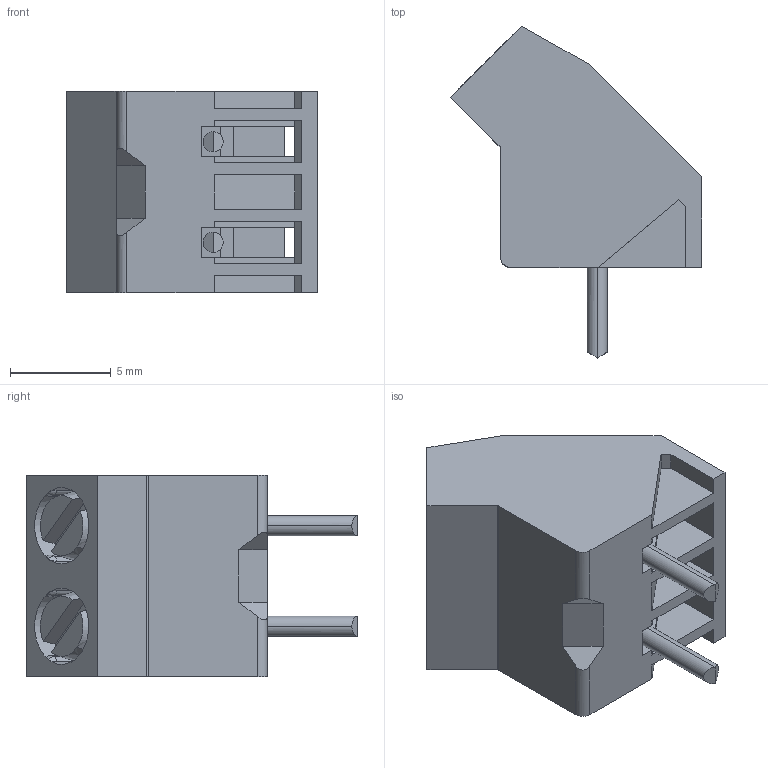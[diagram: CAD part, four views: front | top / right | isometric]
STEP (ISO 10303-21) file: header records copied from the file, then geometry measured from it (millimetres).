
FILE_DESCRIPTION (( 'STEP AP214' ), '1' );
FILE_NAME ('974-DS-02.STEP', '2009-02-18T19:57:09', ( 'weco' ), ( 'weco' ), 'SwSTEP 2.0', 'SolidWorks 2007', '' );
FILE_SCHEMA (( 'AUTOMOTIVE_DESIGN' ));
Length unit declared in the file: millimetre
Products named in the file (1): 974-DS-02
Bounding box: 12.5 x 16.5 x 10 mm (x, y, z)
Volume: 780.2 mm3; surface area: 953.3 mm2
Topology: 1 solids, 1 shells, 242 faces, 701 edges, 452 vertices
Faces by surface type: plane 149, cylinder 47, cone 30, bspline 16
Entity records: 8533 total; most frequent: CARTESIAN_POINT 2322, ORIENTED_EDGE 1402, DIRECTION 1181, EDGE_CURVE 701, VERTEX_POINT 452, LINE 439, VECTOR 439, AXIS2_PLACEMENT_3D 371
